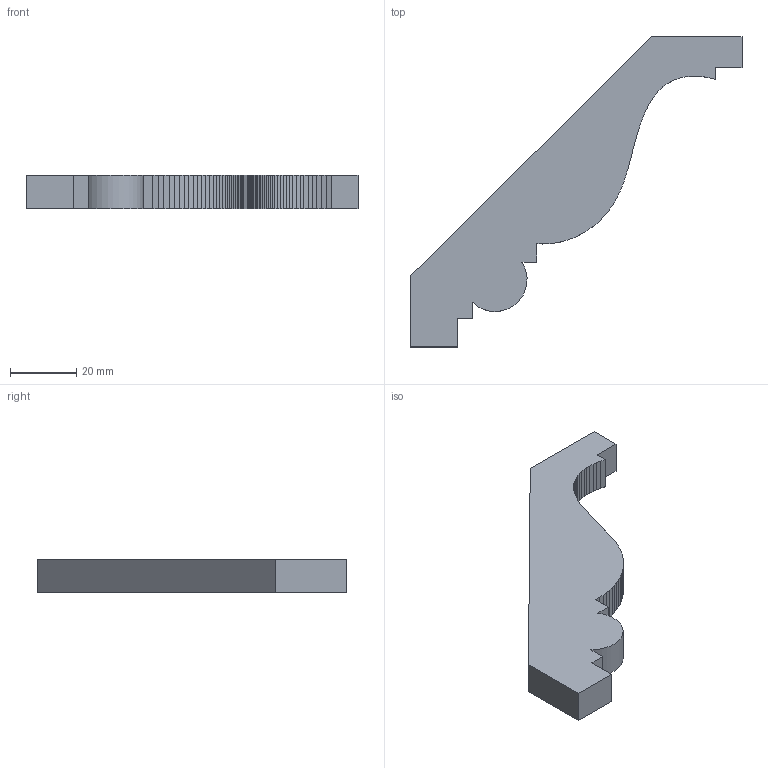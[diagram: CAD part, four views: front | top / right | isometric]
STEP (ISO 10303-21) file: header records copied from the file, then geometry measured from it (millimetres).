
FILE_DESCRIPTION (( 'STEP AP203' ), '1' );
FILE_NAME ('AB501.STEP', '2024-02-22T13:02:32', ( '' ), ( '' ), 'SwSTEP 2.0', 'SolidWorks 2020', '' );
FILE_SCHEMA (( 'CONFIG_CONTROL_DESIGN' ));
Length unit declared in the file: millimetre
Products named in the file (1): AB501
Bounding box: 100.18 x 93.54 x 10 mm (x, y, z)
Volume: 27297.6 mm3; surface area: 8715.9 mm2
Topology: 1 solids, 1 shells, 79 faces, 231 edges, 154 vertices
Faces by surface type: plane 78, cylinder 1
Entity records: 2644 total; most frequent: CARTESIAN_POINT 465, ORIENTED_EDGE 462, DIRECTION 393, EDGE_CURVE 231, VECTOR 229, LINE 229, VERTEX_POINT 154, AXIS2_PLACEMENT_3D 82
